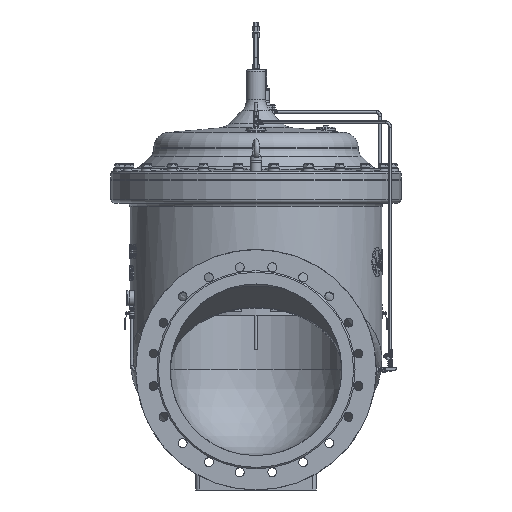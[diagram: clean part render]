
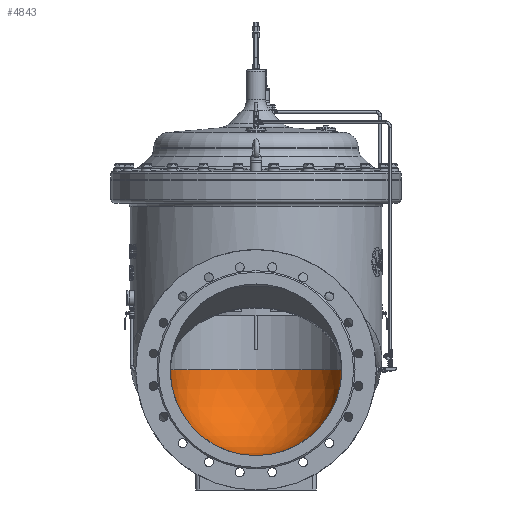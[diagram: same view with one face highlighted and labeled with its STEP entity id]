
A CAD part, left-side view. The second image highlights one B-rep face of the part: STEP entity #4843.
In plain terms, the highlighted spherical face has radius 300 mm.
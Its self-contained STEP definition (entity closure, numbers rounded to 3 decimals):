
#4843=ADVANCED_FACE('',(#17454),#17456,.F.);
#17454=FACE_BOUND('',#17455,.T.);
#17455=EDGE_LOOP('',(#44099,#44100,#44101,#44102,#44103,#44104,#44105));
#17456=SPHERICAL_SURFACE('',#17457,300.);
#17457=AXIS2_PLACEMENT_3D('',#17458,#17459,#17460);
#17458=CARTESIAN_POINT('',(0.,0.,0.));
#17459=DIRECTION('',(0.,0.,-1.));
#17460=DIRECTION('',(0.,1.,0.));
#44099=ORIENTED_EDGE('',*,*,#52668,.T.);
#44100=ORIENTED_EDGE('',*,*,#52669,.T.);
#44101=ORIENTED_EDGE('',*,*,#52670,.F.);
#44102=ORIENTED_EDGE('',*,*,#52431,.F.);
#44103=ORIENTED_EDGE('',*,*,#52671,.T.);
#44104=ORIENTED_EDGE('',*,*,#52672,.T.);
#44105=ORIENTED_EDGE('',*,*,#52673,.T.);
#52431=EDGE_CURVE('',#57061,#57063,#57064,.T.);
#52668=EDGE_CURVE('',#57507,#57508,#57509,.T.);
#52669=EDGE_CURVE('',#57508,#57510,#57511,.T.);
#52670=EDGE_CURVE('',#57063,#57510,#57512,.T.);
#52671=EDGE_CURVE('',#57061,#57513,#57514,.T.);
#52672=EDGE_CURVE('',#57513,#57515,#57516,.F.);
#52673=EDGE_CURVE('',#57515,#57507,#57517,.T.);
#57061=VERTEX_POINT('',#71813);
#57063=VERTEX_POINT('',#71817);
#57064=CIRCLE('',#71818,300.);
#57507=VERTEX_POINT('',#79010);
#57508=VERTEX_POINT('',#79011);
#57509=CIRCLE('',#79012,5.5);
#57510=VERTEX_POINT('',#79016);
#57511=CIRCLE('',#79017,300.);
#57512=CIRCLE('',#79021,300.);
#57513=VERTEX_POINT('',#79025);
#57514=CIRCLE('',#79026,300.);
#57515=VERTEX_POINT('',#79030);
#57516=CIRCLE('',#79031,300.);
#57517=CIRCLE('',#79035,5.5);
#71813=CARTESIAN_POINT('',(0.,300.,0.));
#71817=CARTESIAN_POINT('',(0.,-300.,0.));
#71818=AXIS2_PLACEMENT_3D('',#71819,#71820,#71821);
#71819=CARTESIAN_POINT('',(0.,0.,0.));
#71820=DIRECTION('',(0.,0.,-1.));
#71821=DIRECTION('',(0.,1.,0.));
#79010=CARTESIAN_POINT('',(5.5,0.,-299.95));
#79011=CARTESIAN_POINT('',(0.,-5.5,-299.95));
#79012=AXIS2_PLACEMENT_3D('',#79013,#79014,#79015);
#79013=CARTESIAN_POINT('',(0.,0.,-299.95));
#79014=DIRECTION('',(0.,0.,-1.));
#79015=DIRECTION('',(1.,0.,0.));
#79016=CARTESIAN_POINT('',(0.,-299.599,-15.5));
#79017=AXIS2_PLACEMENT_3D('',#79018,#79019,#79020);
#79018=CARTESIAN_POINT('',(0.,0.,0.));
#79019=DIRECTION('',(-1.,0.,0.));
#79020=DIRECTION('',(0.,-0.018,-1.));
#79021=AXIS2_PLACEMENT_3D('',#79022,#79023,#79024);
#79022=CARTESIAN_POINT('',(0.,0.,0.));
#79023=DIRECTION('',(1.,0.,0.));
#79024=DIRECTION('',(0.,-1.,0.));
#79025=CARTESIAN_POINT('',(0.,299.599,-15.5));
#79026=AXIS2_PLACEMENT_3D('',#79027,#79028,#79029);
#79027=CARTESIAN_POINT('',(0.,0.,0.));
#79028=DIRECTION('',(-1.,0.,0.));
#79029=DIRECTION('',(0.,1.,0.));
#79030=CARTESIAN_POINT('',(0.,5.5,-299.95));
#79031=AXIS2_PLACEMENT_3D('',#79032,#79033,#79034);
#79032=CARTESIAN_POINT('',(0.,0.,0.));
#79033=DIRECTION('',(1.,0.,0.));
#79034=DIRECTION('',(0.,0.018,-1.));
#79035=AXIS2_PLACEMENT_3D('',#79036,#79037,#79038);
#79036=CARTESIAN_POINT('',(0.,0.,-299.95));
#79037=DIRECTION('',(0.,0.,-1.));
#79038=DIRECTION('',(0.,1.,0.));
